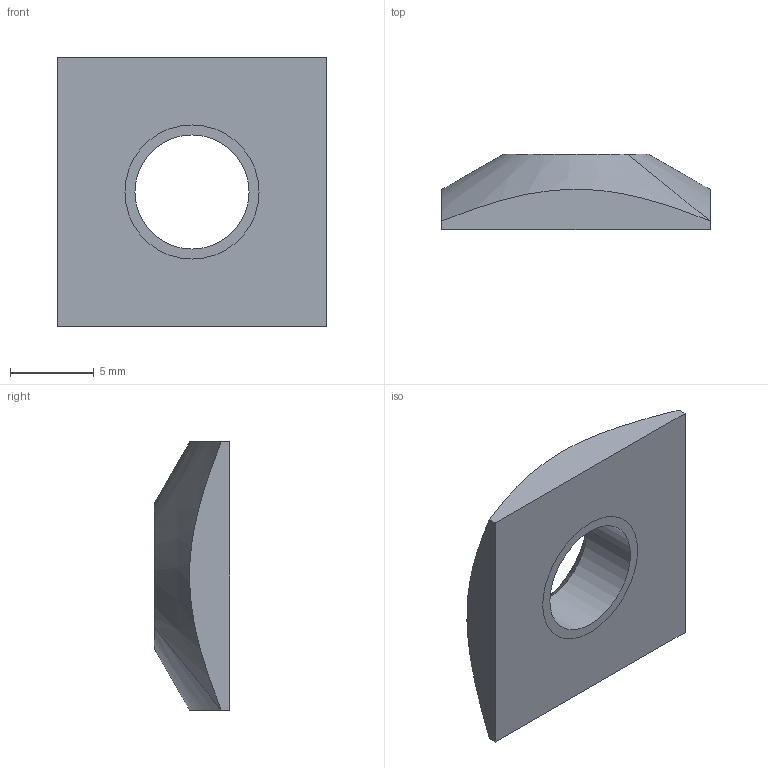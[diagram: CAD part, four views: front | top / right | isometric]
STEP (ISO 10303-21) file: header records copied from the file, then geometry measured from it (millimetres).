
FILE_DESCRIPTION((''),'2;1');
FILE_NAME('DAQ0830','2002-12-27T',('Lipro doo'),('Lipro d.o.o.'),'PRO/ENGINEER BY PARAMETRIC TECHNOLOGY CORPORATION, 2001150','PRO/ENGINEER BY PARAMETRIC TECHNOLOGY CORPORATION, 2001150','');
FILE_SCHEMA(('CONFIG_CONTROL_DESIGN'));
Length unit declared in the file: millimetre
Products named in the file (1): DAQ0830
Bounding box: 16 x 4.5 x 16 mm (x, y, z)
Volume: 668.5 mm3; surface area: 772.7 mm2
Topology: 1 solids, 2 shells, 14 faces, 32 edges, 20 vertices
Faces by surface type: plane 6, cone 4, cylinder 4
Entity records: 500 total; most frequent: CARTESIAN_POINT 131, DIRECTION 70, ORIENTED_EDGE 60, EDGE_CURVE 32, AXIS2_PLACEMENT_3D 27, VERTEX_POINT 20, VECTOR 16, LINE 16
